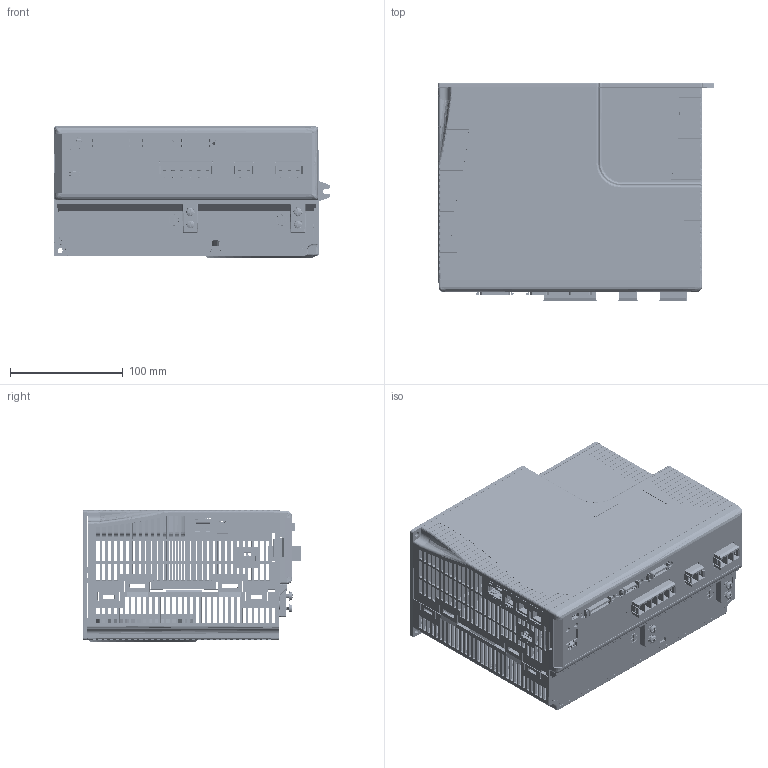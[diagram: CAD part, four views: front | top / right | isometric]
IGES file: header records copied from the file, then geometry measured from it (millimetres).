
Start section: SolidWorks IGES file using analytic representation for surfaces
Global section: file name: H:\ANaivelt\Roni\CDHD Catalog\CDHD_200V\CDHD 20A\CDHD 20-24A_cat.IGS; native system: SolidWorks 2009; preprocessor: SolidWorks 2009; author: Alexander.Naivelt; date: 140522.183913; units: millimetre
Bounding box: 245.34 x 193.5 x 117.37 mm (x, y, z)
Surface area: 463789.4 mm2 (no closed solid volume)
Topology: 0 solids, 0 shells, 10969 faces, 83145 edges, 83102 vertices
Faces by surface type: bspline 8800, revolution 2169
